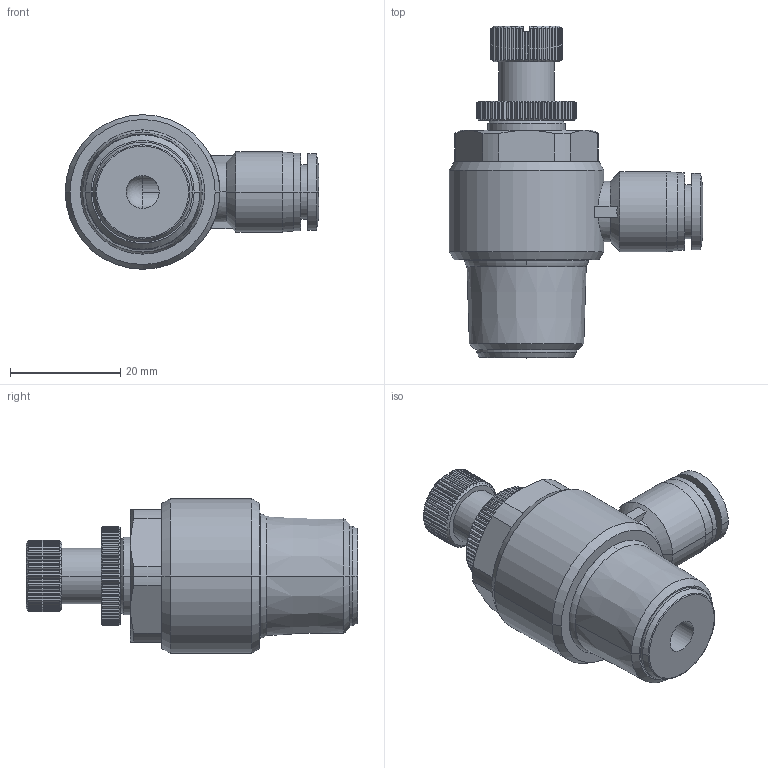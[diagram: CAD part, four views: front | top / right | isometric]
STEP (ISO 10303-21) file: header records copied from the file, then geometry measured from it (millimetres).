
FILE_DESCRIPTION (( 'STEP AP203' ), '1' );
FILE_NAME ('SCL08-04.STEP', '2020-05-12T15:36:46', ( '' ), ( '' ), 'SwSTEP 2.0', 'SolidWorks 2019', '' );
FILE_SCHEMA (( 'CONFIG_CONTROL_DESIGN' ));
Length unit declared in the file: millimetre
Products named in the file (1): SCL08-04
Bounding box: 45.9 x 60.1 x 28 mm (x, y, z)
Volume: 22747.3 mm3; surface area: 7638.1 mm2
Topology: 1 solids, 1 shells, 580 faces, 1405 edges, 838 vertices
Faces by surface type: plane 261, cone 162, cylinder 150, torus 6, sphere 1
Entity records: 16384 total; most frequent: CARTESIAN_POINT 3873, ORIENTED_EDGE 2808, DIRECTION 2583, EDGE_CURVE 1404, AXIS2_PLACEMENT_3D 1070, VERTEX_POINT 838, EDGE_LOOP 594, ADVANCED_FACE 580
